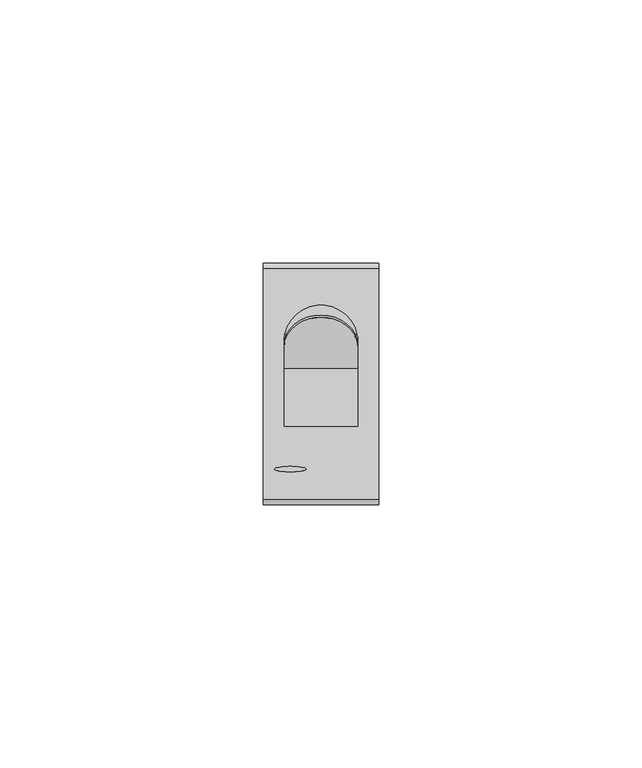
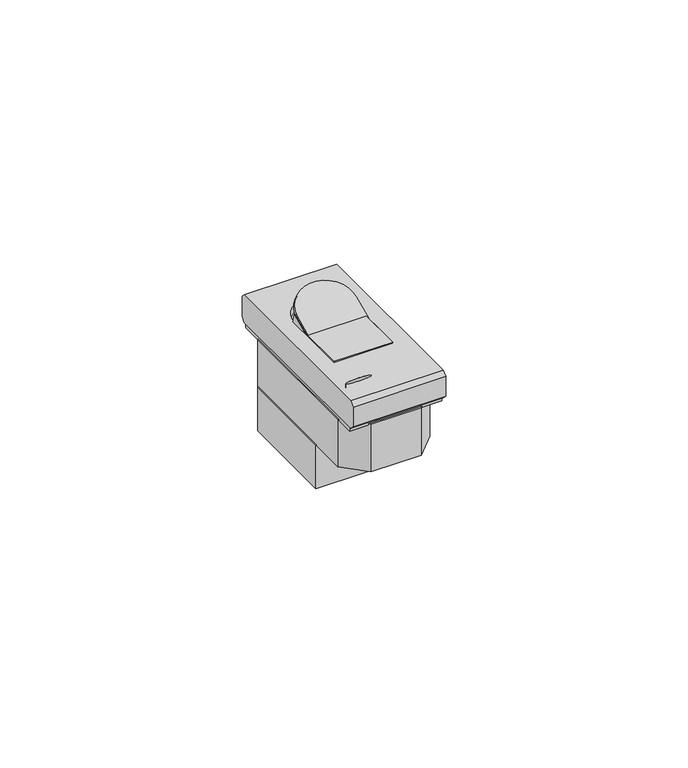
"""IFC4 building model written with IfcOpenShell, lengths in millimetres: proxy geometry, L4301 LI magnetotermico 1P+N : L4301-10 LI magnetotermico 1P+N 10A 3kA."""

from ifc_helpers import new_model, si_unit, point, frame, origin, origin_with_axes, place, context, project, spatial, polyline, circle_curve, ellipse_curve, trimmed, outline, extrude, source, transform, mapped, element, save
from ifc_brep_helpers import plane_surface, revolved_surface, extruded_surface, advanced_brep


def electrical_fixtures_02953c03(model_context):
    return source(origin(), model_context, "Body", "SolidModel", [
        extrude(outline(polyline([(4.2459071, 7.979899), (8.3339056, 9.886164), (9.3920425, 6.0), (-8.0, 6.0), (-8.0, 7.979899), (4.2459071, 7.979899)])), frame((-7.0, 0.0, 0.0), z_axis=(1.0, 0.0, 0.0), x_axis=(0.0, 1.0, 0.0)), (0.0, 0.0, 1.0), 14.0),
        advanced_brep(
        [(-7.0, 1.9050993, 7.9917403), (7.0, 1.9050993, 7.9917403), (7.0, 6.9068775, 10.3241078), (-7.0, 6.9068775, 10.3241078), (-7.0, 2.3277175, 7.0854325), (-7.0, 7.3294957, 9.4178), (7.0, 7.3294957, 9.4178), (7.0, 2.3277175, 7.0854325)],
        [
            (0, 1),
            (1, 2),
            (2, 3, ellipse_curve(frame((0.0, 6.9068775, 10.3241078), z_axis=(0.0, -0.422618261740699, 0.9063077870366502), x_axis=(1.0, 0.0, 0.0)), 7.0, 6.3441545)),
            (3, 0),
            (4, 5),
            (5, 6, ellipse_curve(frame((0.0, 7.3294957, 9.4178), z_axis=(0.0, 0.422618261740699, -0.9063077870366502), x_axis=(1.0, 0.0, 0.0)), 7.0, 6.3441545)),
            (6, 7),
            (7, 4),
            (0, 4),
            (7, 1),
            (6, 2),
            (5, 3),
        ],
        [
            plane_surface(frame((-7.0, 1.9050993, 7.9917403), z_axis=(0.0, -0.42261826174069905, 0.9063077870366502), x_axis=(1.0, 0.0, 0.0))),
            plane_surface(frame((-7.0, 2.3277175, 7.0854325), z_axis=(0.0, 0.42261826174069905, -0.9063077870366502), x_axis=(-1.0, 0.0, 0.0))),
            plane_surface(frame((-7.0, 1.9050993, 7.9917403), z_axis=(0.0, -0.9063077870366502, -0.422618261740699), x_axis=(0.0, 0.422618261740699, -0.9063077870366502))),
            plane_surface(frame((7.0, 1.9050993, 7.9917403), z_axis=(1.0, 0.0, 0.0), x_axis=(0.0, 0.422618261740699, -0.9063077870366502))),
            extruded_surface(trimmed(ellipse_curve(frame((0.0, 7.752114, 8.5114922), z_axis=(0.0, -0.422618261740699, 0.9063077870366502), x_axis=(1.0, 0.0, 0.0)), 7.0, 6.3441545), [point((7.0, 7.752114, 8.5114922))], [point((-7.0, 7.752114, 8.5114922))], True, "CARTESIAN"), (0.0, -0.4226182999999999, 0.9063078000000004), 1.000000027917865),
            plane_surface(frame((-7.0, 6.9068775, 10.3241078), z_axis=(-1.0000000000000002, 0.0, 0.0), x_axis=(0.0, 0.42261826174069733, -0.906307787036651))),
        ],
        [
            (0, [[1, 2, 3, 4]]),
            (1, [[5, 6, 7, 8]]),
            (2, [[-1, 9, -8, 10]]),
            (3, [[-2, -10, -7, 11]]),
            (4, [[-3, -11, -6, 12]]),
            (5, [[-4, -12, -5, -9]]),
        ],
    ),
        advanced_brep(
        [(11.0, -22.0, 1.0), (11.0, 22.0, 1.0), (11.0, 22.9899495, 1.9899495), (11.0, 22.9899495, 6.9899495), (11.0, 22.0, 7.979899), (11.0, -22.0, 7.979899), (11.0, -22.9899495, 6.9899495), (11.0, -22.9899495, 1.9899495), (-11.0, -22.0, 1.0), (-11.0, -22.9899495, 1.9899495), (-11.0, -22.9899495, 6.9899495), (-11.0, -22.0, 7.979899), (-11.0, 22.0, 7.979899), (-11.0, 22.9899495, 6.9899495), (-11.0, 22.9899495, 1.9899495), (-11.0, 22.0, 1.0), (7.0, 8.0, 7.979899), (7.0, -8.0, 7.979899), (-7.0, -8.0, 7.979899), (-7.0, 8.0, 7.979899), (-8.8160974, -16.1699419, 7.979899), (-2.8160974, -16.1699419, 7.979899), (7.0, -8.0, 6.0), (7.0, 8.0, 6.0), (-7.0, 8.0, 6.0), (-7.0, -8.0, 6.0), (-2.8160974, -16.1699419, 7.0), (-8.8160974, -16.1699419, 7.0)],
        [
            (0, 1),
            (1, 2),
            (2, 3),
            (3, 4),
            (4, 5),
            (5, 6),
            (6, 7),
            (7, 0),
            (8, 9),
            (9, 10),
            (10, 11),
            (11, 12),
            (12, 13),
            (13, 14),
            (14, 15),
            (15, 8),
            (0, 8),
            (15, 1),
            (5, 11),
            (10, 6),
            (9, 7),
            (14, 2),
            (13, 3),
            (12, 4),
            (16, 17),
            (17, 18),
            (18, 19),
            (19, 16, circle_curve(frame((0.0, 8.0, 7.979899), z_axis=(0.0, 0.0, -1.0), x_axis=(1.0, 0.0, 0.0)), 7.0)),
            (20, 21, ellipse_curve(frame((-5.8160974, -16.1699419, 7.979899), z_axis=(0.0, 0.0, -1.0), x_axis=(-1.0, 0.0, 0.0)), 3.0, 0.5)),
            (21, 20, ellipse_curve(frame((-5.8160974, -16.1699419, 7.979899), z_axis=(0.0, 0.0, -1.0), x_axis=(-1.0, 0.0, 0.0)), 3.0, 0.5)),
            (22, 23),
            (23, 24, circle_curve(frame((0.0, 8.0, 6.0), z_axis=(0.0, 0.0, 1.0), x_axis=(1.0, 0.0, 0.0)), 7.0)),
            (24, 25),
            (25, 22),
            (22, 17),
            (16, 23),
            (19, 24),
            (18, 25),
            (26, 27, ellipse_curve(frame((-5.8160974, -16.1699419, 7.0), z_axis=(0.0, 0.0, 1.0), x_axis=(-1.0, 0.0, 0.0)), 3.0, 0.5)),
            (27, 26, ellipse_curve(frame((-5.8160974, -16.1699419, 7.0), z_axis=(0.0, 0.0, 1.0), x_axis=(-1.0, 0.0, 0.0)), 3.0, 0.5)),
            (26, 21),
            (20, 27),
        ],
        [
            plane_surface(frame((11.0, 0.0, 1.0), z_axis=(1.0, 0.0, 0.0), x_axis=(0.0, 1.0, 0.0))),
            plane_surface(frame((-11.0, 0.0, 1.0), z_axis=(-1.0, 0.0, 0.0), x_axis=(0.0, -1.0, 0.0))),
            plane_surface(frame((11.0, -22.0, 1.0), z_axis=(0.0, 0.0, -1.0), x_axis=(-1.0, 0.0, 0.0))),
            plane_surface(frame((11.0, -22.0, 7.979899), z_axis=(0.0, -0.7071067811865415, 0.7071067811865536), x_axis=(-1.0, 0.0, 0.0))),
            plane_surface(frame((11.0, -22.9899495, 6.9899495), z_axis=(0.0, -1.0, 0.0), x_axis=(-1.0, 0.0, 0.0))),
            plane_surface(frame((11.0, -22.9899495, 1.9899495), z_axis=(0.0, -0.707106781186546, -0.707106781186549), x_axis=(-1.0, 0.0, 0.0))),
            plane_surface(frame((11.0, 22.0, 1.0), z_axis=(0.0, 0.7071067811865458, -0.7071067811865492), x_axis=(-1.0, 0.0, 0.0))),
            plane_surface(frame((11.0, 22.9899495, 1.9899495), z_axis=(0.0, 1.0, 0.0), x_axis=(-1.0, 0.0, 0.0))),
            plane_surface(frame((11.0, 22.9899495, 6.9899495), z_axis=(0.0, 0.7071067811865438, 0.7071067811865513), x_axis=(-1.0, 0.0, 0.0))),
            plane_surface(frame((11.0, 22.0, 7.979899), z_axis=(0.0, 0.0, 1.0), x_axis=(-1.0, 0.0, 0.0))),
            plane_surface(frame((7.0, -11.5929396, 6.0), z_axis=(0.0, 0.0, 1.0), x_axis=(0.0, -1.0, 0.0))),
            plane_surface(frame((7.0, -8.0, 7.979899), z_axis=(-1.0, 0.0, 0.0), x_axis=(0.0, 0.0, -1.0))),
            revolved_surface(polyline([(7.0, 8.0, 7.979899), (7.0, 8.0, 6.0)]), (0.0, 8.0, 6.0), (0.0, 0.0, 1.0)),
            plane_surface(frame((-7.0, 8.0, 7.979899), z_axis=(1.0, 0.0, 0.0), x_axis=(0.0, 0.0, -1.0))),
            plane_surface(frame((-7.0, -8.0, 7.979899), z_axis=(0.0, 1.0, 0.0), x_axis=(0.0, 0.0, -1.0))),
            plane_surface(frame((-8.8160974, -16.1699419, 7.0), z_axis=(0.0, 0.0, 1.0), x_axis=(0.0, 1.0, 0.0))),
            extruded_surface(trimmed(ellipse_curve(frame((-5.8160974, -16.1699419, 7.0), z_axis=(0.0, 0.0, 1.0), x_axis=(-1.0, 0.0, 0.0)), 3.0, 0.5), [point((-2.8160974, -16.1699419, 7.0))], [point((-8.8160974, -16.1699419, 7.0))], True, "CARTESIAN"), (0.0, 0.0, -0.9798989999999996), 0.9798989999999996),
            extruded_surface(trimmed(ellipse_curve(frame((-5.8160974, -16.1699419, 7.0), z_axis=(0.0, 0.0, 1.0), x_axis=(-1.0, 0.0, 0.0)), 3.0, 0.5), [point((-8.8160974, -16.1699419, 7.0))], [point((-2.8160974, -16.1699419, 7.0))], True, "CARTESIAN"), (0.0, 0.0, -0.9798989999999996), 0.9798989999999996),
        ],
        [
            (0, [[1, 2, 3, 4, 5, 6, 7, 8]]),
            (1, [[9, 10, 11, 12, 13, 14, 15, 16]]),
            (2, [[-1, 17, -16, 18]]),
            (3, [[-6, 19, -11, 20]]),
            (4, [[-7, -20, -10, 21]]),
            (5, [[-8, -21, -9, -17]]),
            (6, [[-2, -18, -15, 22]]),
            (7, [[-3, -22, -14, 23]]),
            (8, [[-4, -23, -13, 24]]),
            (9, [[-5, -24, -12, -19], [25, 26, 27, 28], [29, 30]]),
            (10, [[31, 32, 33, 34]]),
            (11, [[-31, 35, -25, 36]]),
            (12, [[-32, -36, -28, 37]]),
            (13, [[-33, -37, -27, 38]]),
            (14, [[-34, -38, -26, -35]]),
            (15, [[39, 40]]),
            (16, [[-39, 41, -29, 42]]),
            (17, [[-40, -42, -30, -41]]),
        ],
    ),
        extrude(outline(polyline([(-11.0, -7.5), (-11.0, 16.5), (-9.0, 18.5), (9.0, 18.5), (11.0, 16.5), (11.0, -7.5), (-11.0, -7.5)])), frame((0.0, 0.0, -23.0), z_axis=(0.0, 0.0, 1.0), x_axis=(1.0, 0.0, 0.0)), (0.0, 0.0, 1.0), 11.0),
        extrude(outline(polyline([(11.0, -16.5), (6.0, -21.5), (-6.0, -21.5), (-11.0, -16.5), (-11.0, 16.5), (-6.0, 21.5), (6.0, 21.5), (11.0, 16.5), (11.0, -16.5)])), frame((0.0, 0.0, -12.0), z_axis=(0.0, 0.0, 1.0), x_axis=(1.0, 0.0, 0.0)), (0.0, 0.0, 1.0), 12.0),
        extrude(outline(polyline([(11.0, -21.5), (-11.0, -21.5), (-11.0, 21.5), (11.0, 21.5), (11.0, -21.5)])), origin_with_axes(), (0.0, 0.0, 1.0), 1.0),
    ])


if __name__ == "__main__":
    model = new_model("IFC4")
    model_context = context("Model", 3, world=origin())
    ifc_project = project(units=[si_unit("LENGTHUNIT", "METRE", prefix="MILLI")], contexts=[model_context])
    site = spatial("IfcSite", under=ifc_project)
    building = spatial("IfcBuilding", under=site)
    placement = place(None, origin())
    electrical_fixtures_shape = electrical_fixtures_02953c03(model_context)
    element("IfcBuildingElementProxy", 1, Name="L4301 LI magnetotermico 1P+N : L4301-10 LI magnetotermico 1P+N 10A 3kA", ObjectType="L4301 LI magnetotermico 1P+N : L4301-10 LI magnetotermico 1P+N 10A 3kA", at=placement, inside=building, context=model_context, shape_type="MappedRepresentation", body=[
        mapped(electrical_fixtures_shape, transform((0.0, 0.0, 0.0), x_axis=(1.0, 0.0, 0.0), y_axis=(0.0, 1.0, 0.0), z_axis=(0.0, 0.0, 1.0))),
    ])
    save(model, "model.ifc")
